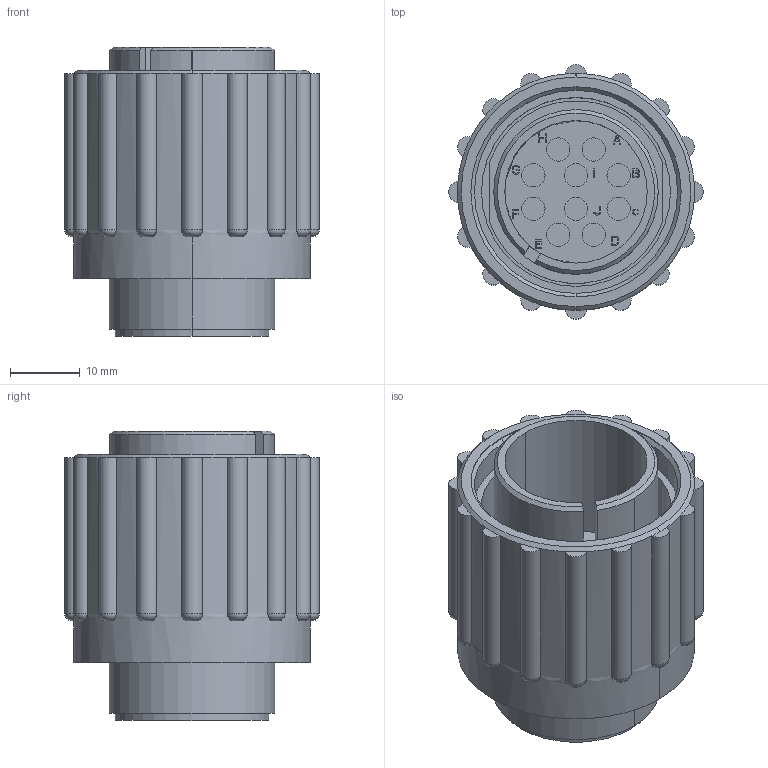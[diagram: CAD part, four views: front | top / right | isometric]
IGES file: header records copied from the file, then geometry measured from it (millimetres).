
Start section:  PTC IGES file: c-0213671-01-a-3d.igs
Global section: file name: c-0213671-01-a-3d.igs; native system: Pro/ENGINEER by Parametric Technology Corporation; preprocessor: 2005450; author: workeradm; organization: Unknown; date: 070904.154940; units: millimetre
Bounding box: 36.44 x 36.44 x 41.5 mm (x, y, z)
Surface area: 11946.3 mm2 (no closed solid volume)
Topology: 0 solids, 0 shells, 437 faces, 2262 edges, 2262 vertices
Faces by surface type: bspline 337, revolution 98, extrusion 2
